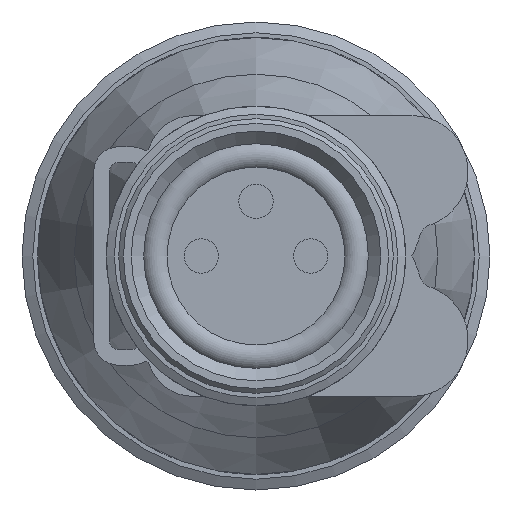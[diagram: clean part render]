
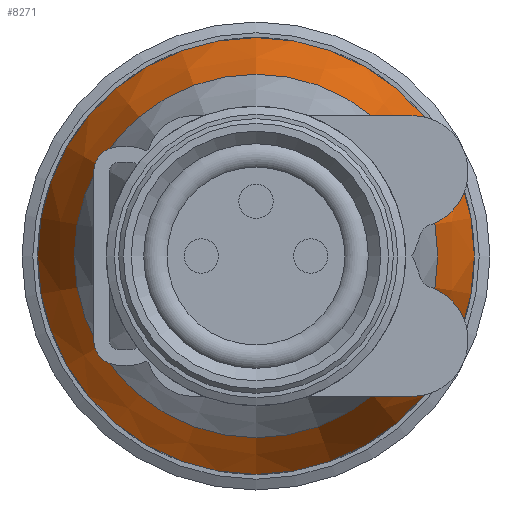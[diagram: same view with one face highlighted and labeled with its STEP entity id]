
A CAD part, left-side view. The second image highlights one B-rep face of the part: STEP entity #8271.
In plain terms, the highlighted conical face has half-angle 20.807 degrees and reference radius 5.1 mm.
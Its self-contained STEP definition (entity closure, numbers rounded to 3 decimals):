
#51=CONICAL_SURFACE('',#8961,5.1,0.363);
#617=CIRCLE('',#8959,7.);
#618=CIRCLE('',#8960,7.);
#619=CIRCLE('',#8962,5.1);
#620=CIRCLE('',#8963,5.1);
#1124=LINE('',#18294,#1629);
#1629=VECTOR('',#10601,5.1);
#2308=FACE_OUTER_BOUND('',#2785,.T.);
#2785=EDGE_LOOP('',(#6381,#6382,#6383,#6384,#6385,#6386));
#3550=VERTEX_POINT('',#18287);
#3551=VERTEX_POINT('',#18289);
#3552=VERTEX_POINT('',#18293);
#3553=VERTEX_POINT('',#18295);
#4563=EDGE_CURVE('',#3550,#3551,#617,.T.);
#4564=EDGE_CURVE('',#3551,#3550,#618,.T.);
#4565=EDGE_CURVE('',#3550,#3552,#1124,.T.);
#4566=EDGE_CURVE('',#3552,#3553,#619,.T.);
#4567=EDGE_CURVE('',#3553,#3552,#620,.T.);
#6381=ORIENTED_EDGE('',*,*,#4564,.F.);
#6382=ORIENTED_EDGE('',*,*,#4563,.F.);
#6383=ORIENTED_EDGE('',*,*,#4565,.T.);
#6384=ORIENTED_EDGE('',*,*,#4566,.T.);
#6385=ORIENTED_EDGE('',*,*,#4567,.T.);
#6386=ORIENTED_EDGE('',*,*,#4565,.F.);
#8271=ADVANCED_FACE('',(#2308),#51,.T.);
#8959=AXIS2_PLACEMENT_3D('',#18290,#10595,#10596);
#8960=AXIS2_PLACEMENT_3D('',#18291,#10597,#10598);
#8961=AXIS2_PLACEMENT_3D('',#18292,#10599,#10600);
#8962=AXIS2_PLACEMENT_3D('',#18296,#10602,#10603);
#8963=AXIS2_PLACEMENT_3D('',#18297,#10604,#10605);
#10595=DIRECTION('center_axis',(1.,0.,0.));
#10596=DIRECTION('ref_axis',(0.,0.,-1.));
#10597=DIRECTION('center_axis',(1.,0.,0.));
#10598=DIRECTION('ref_axis',(0.,0.,-1.));
#10599=DIRECTION('center_axis',(1.,0.,0.));
#10600=DIRECTION('ref_axis',(0.,0.,-1.));
#10601=DIRECTION('',(-0.935,0.,-0.355));
#10602=DIRECTION('center_axis',(1.,0.,0.));
#10603=DIRECTION('ref_axis',(0.,0.,-1.));
#10604=DIRECTION('center_axis',(1.,0.,0.));
#10605=DIRECTION('ref_axis',(0.,0.,-1.));
#18287=CARTESIAN_POINT('',(113.19,0.,7.));
#18289=CARTESIAN_POINT('',(113.19,0.,-7.));
#18290=CARTESIAN_POINT('Origin',(113.19,0.,0.));
#18291=CARTESIAN_POINT('Origin',(113.19,0.,0.));
#18292=CARTESIAN_POINT('Origin',(108.19,0.,0.));
#18293=CARTESIAN_POINT('',(108.19,0.,5.1));
#18294=CARTESIAN_POINT('',(108.19,0.,5.1));
#18295=CARTESIAN_POINT('',(108.19,0.,-5.1));
#18296=CARTESIAN_POINT('Origin',(108.19,0.,0.));
#18297=CARTESIAN_POINT('Origin',(108.19,0.,0.));
